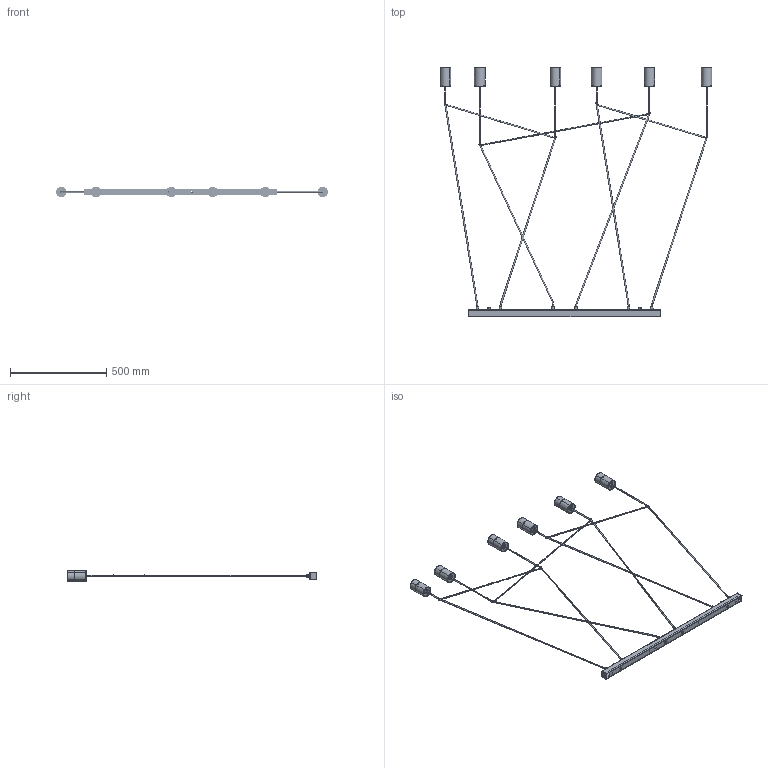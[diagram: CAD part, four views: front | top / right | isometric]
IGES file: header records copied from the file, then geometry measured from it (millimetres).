
Start section: SolidWorks IGES file using analytic representation for surfaces
Global section: file name: C:\Users\Asia\Desktop\IMBRIA\Imbria_9674,9675\Imbria_9674,9675.IGS; native system: SolidWorks 2016; preprocessor: SolidWorks 2016; author: Asia; date: 170602.114329; units: millimetre
Bounding box: 1414.23 x 1295.11 x 55 mm (x, y, z)
Surface area: 783499.1 mm2 (no closed solid volume)
Topology: 0 solids, 0 shells, 1417 faces, 24254 edges, 24159 vertices
Faces by surface type: revolution 824, bspline 593
